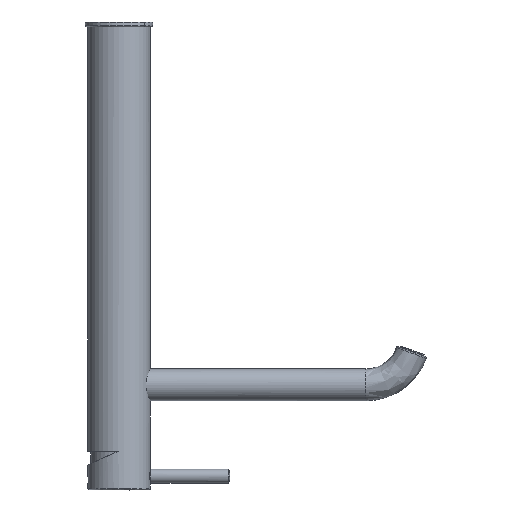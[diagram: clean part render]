
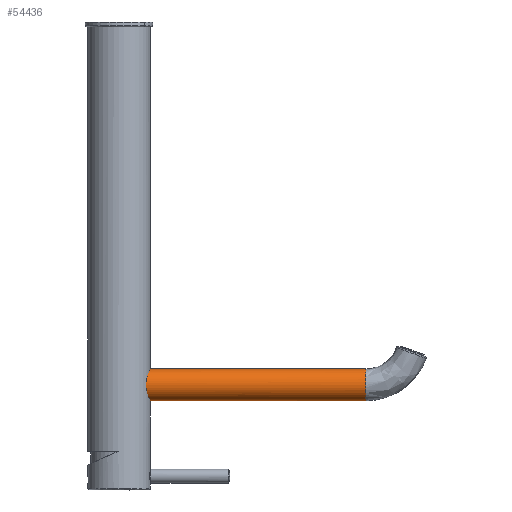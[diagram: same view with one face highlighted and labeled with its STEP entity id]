
A CAD part, front view. The second image highlights one B-rep face of the part: STEP entity #54436.
In plain terms, the highlighted cylindrical face has radius 11.5 mm (diameter 23 mm), a partial arc.
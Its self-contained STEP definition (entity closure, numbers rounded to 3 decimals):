
#57 = CARTESIAN_POINT ( 'NONE',  ( 19.694, -10.882, 44.061 ) ) ;
#1070 = CARTESIAN_POINT ( 'NONE',  ( 21.748, -5.806, 57.755 ) ) ;
#2065 = CARTESIAN_POINT ( 'NONE',  ( 22.5, 0., 36.3 ) ) ;
#3082 = CARTESIAN_POINT ( 'NONE',  ( 22.5, -0.765, 36.3 ) ) ;
#10327 = EDGE_CURVE ( 'NONE', #171595, #39036, #69441, .T. ) ;
#10954 = DIRECTION ( 'NONE',  ( 1., 0., 0. ) ) ;
#13668 = CARTESIAN_POINT ( 'NONE',  ( 22.5, 0., 59.3 ) ) ;
#13778 = DIRECTION ( 'NONE',  ( 1., 0., 0. ) ) ;
#14043 = VERTEX_POINT ( 'NONE', #79184 ) ;
#16041 = CARTESIAN_POINT ( 'NONE',  ( 178.326, 0., 47.8 ) ) ;
#16495 = CARTESIAN_POINT ( 'NONE',  ( 19.696, -10.878, 51.55 ) ) ;
#17496 = CARTESIAN_POINT ( 'NONE',  ( 22.126, -4.103, 37.05 ) ) ;
#20597 = CARTESIAN_POINT ( 'NONE',  ( 19.516, -11.198, 45.153 ) ) ;
#31867 = CARTESIAN_POINT ( 'NONE',  ( 22.188, -3.75, 58.678 ) ) ;
#31917 = CIRCLE ( 'NONE', #192088, 11.5 ) ;
#32901 = CARTESIAN_POINT ( 'NONE',  ( 21.917, -5.138, 37.485 ) ) ;
#33358 = DIRECTION ( 'NONE',  ( 0., 0., -1. ) ) ;
#34381 = DIRECTION ( 'NONE',  ( 1., 0., 0. ) ) ;
#34927 = CARTESIAN_POINT ( 'NONE',  ( 22.46, -1.534, 59.223 ) ) ;
#35920 = CARTESIAN_POINT ( 'NONE',  ( 22.5, -0.775, 59.3 ) ) ;
#39036 = VERTEX_POINT ( 'NONE', #78278 ) ;
#43861 = ORIENTED_EDGE ( 'NONE', *, *, #10327, .F. ) ;
#47296 = CARTESIAN_POINT ( 'NONE',  ( 19.516, -11.197, 50.451 ) ) ;
#48172 = ORIENTED_EDGE ( 'NONE', *, *, #62648, .T. ) ;
#48309 = CARTESIAN_POINT ( 'NONE',  ( 21.75, -5.796, 37.839 ) ) ;
#51287 = CARTESIAN_POINT ( 'NONE',  ( 21.373, -7.037, 56.903 ) ) ;
#51852 = DIRECTION ( 'NONE',  ( -1., 0., 0. ) ) ;
#54436 = ADVANCED_FACE ( 'NONE', ( #134936 ), #165678, .T. ) ;
#55632 = EDGE_CURVE ( 'NONE', #171595, #98741, #184840, .T. ) ;
#62598 = CARTESIAN_POINT ( 'NONE',  ( 19.395, -11.405, 46.275 ) ) ;
#62648 = EDGE_CURVE ( 'NONE', #14043, #39036, #31917, .T. ) ;
#63624 = CARTESIAN_POINT ( 'NONE',  ( 20.571, -9.12, 54.816 ) ) ;
#64628 = CARTESIAN_POINT ( 'NONE',  ( 19.767, -10.749, 51.903 ) ) ;
#65630 = CARTESIAN_POINT ( 'NONE',  ( 19.34, -11.499, 48.578 ) ) ;
#68084 = CARTESIAN_POINT ( 'NONE',  ( 178.326, 0., 47.8 ) ) ;
#69441 = LINE ( 'NONE', #87792, #114545 ) ;
#76194 = CARTESIAN_POINT ( 'NONE',  ( 178.326, 0., 36.3 ) ) ;
#78278 = CARTESIAN_POINT ( 'NONE',  ( 178.326, 0., 59.3 ) ) ;
#78905 = CARTESIAN_POINT ( 'NONE',  ( 20.773, -8.649, 55.388 ) ) ;
#79184 = CARTESIAN_POINT ( 'NONE',  ( 178.326, 0., 36.3 ) ) ;
#79945 = CARTESIAN_POINT ( 'NONE',  ( 22.347, -2.65, 36.603 ) ) ;
#81929 = CARTESIAN_POINT ( 'NONE',  ( 22.5, 0., 59.3 ) ) ;
#82951 = CARTESIAN_POINT ( 'NONE',  ( 19.569, -11.104, 44.786 ) ) ;
#87792 = CARTESIAN_POINT ( 'NONE',  ( 178.326, 0., 59.3 ) ) ;
#94320 = CARTESIAN_POINT ( 'NONE',  ( 20.573, -9.114, 40.777 ) ) ;
#95360 = CARTESIAN_POINT ( 'NONE',  ( 22.188, -3.749, 36.922 ) ) ;
#96343 = CARTESIAN_POINT ( 'NONE',  ( 19.386, -11.423, 49.333 ) ) ;
#96445 = ORIENTED_EDGE ( 'NONE', *, *, #122220, .T. ) ;
#97347 = CARTESIAN_POINT ( 'NONE',  ( 19.998, -10.316, 52.936 ) ) ;
#98378 = CARTESIAN_POINT ( 'NONE',  ( 20.178, -9.965, 53.588 ) ) ;
#98741 = VERTEX_POINT ( 'NONE', #175028 ) ;
#109581 = CARTESIAN_POINT ( 'NONE',  ( 20.472, -9.338, 41.078 ) ) ;
#110613 = CARTESIAN_POINT ( 'NONE',  ( 21.181, -7.612, 39.148 ) ) ;
#111635 = CARTESIAN_POINT ( 'NONE',  ( 21.177, -7.609, 56.431 ) ) ;
#112624 = CARTESIAN_POINT ( 'NONE',  ( 22.346, -2.651, 58.997 ) ) ;
#113154 = DIRECTION ( 'NONE',  ( 0., 0., -1. ) ) ;
#113613 = CARTESIAN_POINT ( 'NONE',  ( 20.47, -9.343, 54.515 ) ) ;
#114545 = VECTOR ( 'NONE', #10954, 1000. ) ;
#122220 = EDGE_CURVE ( 'NONE', #98741, #14043, #172400, .T. ) ;
#123877 = ORIENTED_EDGE ( 'NONE', *, *, #55632, .T. ) ;
#124961 = CARTESIAN_POINT ( 'NONE',  ( 19.429, -11.348, 45.897 ) ) ;
#125973 = CARTESIAN_POINT ( 'NONE',  ( 20.776, -8.642, 40.204 ) ) ;
#126969 = CARTESIAN_POINT ( 'NONE',  ( 20.878, -8.394, 39.93 ) ) ;
#128014 = CARTESIAN_POINT ( 'NONE',  ( 21.914, -5.15, 58.11 ) ) ;
#128996 = CARTESIAN_POINT ( 'NONE',  ( 22.299, -3.02, 58.903 ) ) ;
#134936 = FACE_OUTER_BOUND ( 'NONE', #180422, .T. ) ;
#141292 = CARTESIAN_POINT ( 'NONE',  ( 20.18, -9.96, 42.004 ) ) ;
#142137 = AXIS2_PLACEMENT_3D ( 'NONE', #68084, #34381, #33358 ) ;
#142329 = CARTESIAN_POINT ( 'NONE',  ( 22.461, -1.523, 36.375 ) ) ;
#143317 = CARTESIAN_POINT ( 'NONE',  ( 19.339, -11.5, 47.429 ) ) ;
#157712 = CARTESIAN_POINT ( 'NONE',  ( 22.299, -3.024, 36.698 ) ) ;
#158718 = CARTESIAN_POINT ( 'NONE',  ( 19.999, -10.314, 42.658 ) ) ;
#159716 = CARTESIAN_POINT ( 'NONE',  ( 19.571, -11.102, 50.823 ) ) ;
#160763 = CARTESIAN_POINT ( 'NONE',  ( 19.35, -11.481, 47.04 ) ) ;
#165678 = CYLINDRICAL_SURFACE ( 'NONE', #142137, 11.5 ) ;
#171595 = VERTEX_POINT ( 'NONE', #13668 ) ;
#172400 = LINE ( 'NONE', #76194, #197440 ) ;
#173125 = CARTESIAN_POINT ( 'NONE',  ( 21.47, -6.736, 57.128 ) ) ;
#175028 = CARTESIAN_POINT ( 'NONE',  ( 22.5, 0., 36.3 ) ) ;
#175153 = CARTESIAN_POINT ( 'NONE',  ( 21.076, -7.881, 56.183 ) ) ;
#180422 = EDGE_LOOP ( 'NONE', ( #43861, #123877, #96445, #48172 ) ) ;
#184840 = B_SPLINE_CURVE_WITH_KNOTS ( 'NONE', 3,
 ( #81929, #35920, #34927, #112624, #128996, #31867, #191517, #128014, #1070, #173125, #51287, #111635, #175153, #190526, #78905, #63624, #113613, #98378, #97347, #64628, #16495, #159716, #47296, #96343, #65630, #143317, #160763, #62598, #124961, #20597, #82951, #57, #187464, #158718, #141292, #109581, #94320, #125973, #126969, #110613, #188488, #48309, #32901, #17496, #95360, #157712, #79945, #142329, #3082, #2065 ),
 .UNSPECIFIED., .F., .F.,
 ( 4, 2, 2, 2, 2, 2, 2, 2, 2, 2, 2, 2, 2, 2, 2, 2, 2, 2, 2, 2, 2, 2, 2, 2, 4 ),
 ( 0., 0.002, 0.003, 0.005, 0.007, 0.008, 0.009, 0.01, 0.011, 0.014, 0.015, 0.016, 0.018, 0.019, 0.021, 0.022, 0.023, 0.025, 0.026, 0.027, 0.03, 0.032, 0.033, 0.034, 0.037 ),
 .UNSPECIFIED. ) ;
#187464 = CARTESIAN_POINT ( 'NONE',  ( 19.766, -10.752, 43.702 ) ) ;
#188488 = CARTESIAN_POINT ( 'NONE',  ( 21.379, -7.042, 38.678 ) ) ;
#190526 = CARTESIAN_POINT ( 'NONE',  ( 20.874, -8.402, 55.661 ) ) ;
#191517 = CARTESIAN_POINT ( 'NONE',  ( 22.125, -4.108, 58.548 ) ) ;
#192088 = AXIS2_PLACEMENT_3D ( 'NONE', #16041, #51852, #113154 ) ;
#197440 = VECTOR ( 'NONE', #13778, 1000. ) ;
